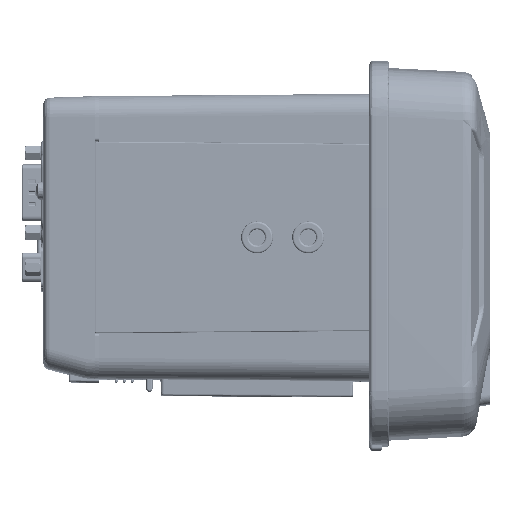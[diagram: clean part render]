
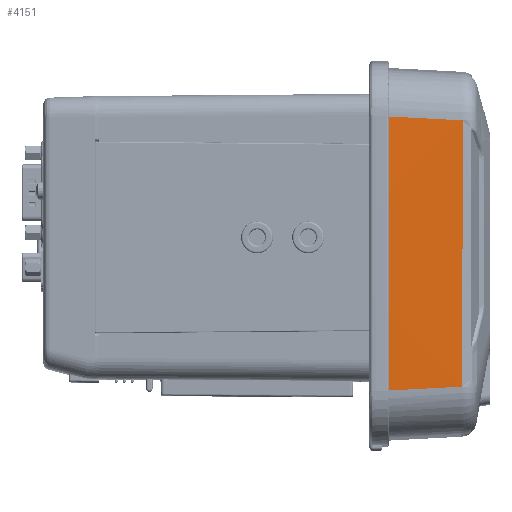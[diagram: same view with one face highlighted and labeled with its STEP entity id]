
A CAD part, top view. The second image highlights one B-rep face of the part: STEP entity #4151.
In plain terms, the highlighted cylindrical face has radius 2503.04 mm (diameter 5006.08 mm), a partial arc.
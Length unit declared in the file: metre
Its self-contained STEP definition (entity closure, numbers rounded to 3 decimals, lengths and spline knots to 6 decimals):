
#4151=ADVANCED_FACE('4072:41922',(#15879),#15880,.T.);
#15879=FACE_OUTER_BOUND('',#44069,.T.);
#15880=CYLINDRICAL_SURFACE('',#44070,2.503038);
#44069=EDGE_LOOP('',(#140937,#140938,#140939,#140940));
#44070=AXIS2_PLACEMENT_3D('',#140941,#140942,#140943);
#140937=ORIENTED_EDGE('',*,*,#225186,.T.);
#140938=ORIENTED_EDGE('',*,*,#224998,.T.);
#140939=ORIENTED_EDGE('',*,*,#225185,.F.);
#140940=ORIENTED_EDGE('',*,*,#224775,.T.);
#140941=CARTESIAN_POINT('',(-2.389142,-0.000002,0.144448));
#140942=DIRECTION('',(0.053,0.,0.999));
#140943=DIRECTION('',(0.,-1.,0.));
#224775=EDGE_CURVE('4072:43704',#257653,#257651,#257654,.T.);
#224998=EDGE_CURVE('4072:43509',#257980,#256106,#258010,.T.);
#225185=EDGE_CURVE('4072:45288',#257653,#256106,#258277,.T.);
#225186=EDGE_CURVE('4072:45312',#257651,#257980,#258278,.T.);
#256106=VERTEX_POINT('',#302435);
#257651=VERTEX_POINT('',#307067);
#257653=VERTEX_POINT('',#307087);
#257654=CIRCLE('',#307088,2.49956);
#257980=VERTEX_POINT('',#307855);
#258010=B_SPLINE_CURVE_WITH_KNOTS('',3,(#307986,#307987,#307988,#307989,#307990,#307991,#307992,#307993,#307994,#307995,#307996,#307997,#307998,#307999,#308000,#308001,#308002,#308003,#308004,#308005,#308006,#308007,#308008,#308009,#308010,#308011),.UNSPECIFIED.,.F.,.F.,(4,2,2,1,2,2,2,2,2,2,2,3,4),(0.0,0.002603,0.003905,0.005206,0.010412,0.020824,0.041648,0.062472,0.072884,0.080693,0.081995,0.083296,0.083302),.UNSPECIFIED.);
#258277=B_SPLINE_CURVE_WITH_KNOTS('',3,(#308737,#308738,#308739,#308740,#308741),.UNSPECIFIED.,.F.,.F.,(4,1,4),(0.0,0.025785,1.0),.UNSPECIFIED.);
#258278=LINE('',#308742,#308743);
#302435=CARTESIAN_POINT('',(0.108918,0.041645,-0.009298));
#307067=CARTESIAN_POINT('',(0.110328,-0.043065,0.01785));
#307087=CARTESIAN_POINT('',(0.110327,0.043065,0.01785));
#307088=AXIS2_PLACEMENT_3D('',#390117,#390118,#390119);
#307855=CARTESIAN_POINT('',(0.108923,-0.041651,-0.009194));
#307986=CARTESIAN_POINT('',(0.108923,-0.041651,-0.009194));
#307987=CARTESIAN_POINT('',(0.108935,-0.040783,-0.009254));
#307988=CARTESIAN_POINT('',(0.108946,-0.039916,-0.009303));
#307989=CARTESIAN_POINT('',(0.108964,-0.038614,-0.009344));
#307990=CARTESIAN_POINT('',(0.10897,-0.03818,-0.009352));
#307991=CARTESIAN_POINT('',(0.108983,-0.037313,-0.009352));
#307992=CARTESIAN_POINT('',(0.109016,-0.035144,-0.009353));
#307993=CARTESIAN_POINT('',(0.109045,-0.032974,-0.009354));
#307994=CARTESIAN_POINT('',(0.10911,-0.027769,-0.009357));
#307995=CARTESIAN_POINT('',(0.109146,-0.024298,-0.009358));
#307996=CARTESIAN_POINT('',(0.109233,-0.013886,-0.009362));
#307997=CARTESIAN_POINT('',(0.109261,-0.006945,-0.009363));
#307998=CARTESIAN_POINT('',(0.109261,0.006938,-0.009365));
#307999=CARTESIAN_POINT('',(0.109233,0.01388,-0.009365));
#308000=CARTESIAN_POINT('',(0.109146,0.024292,-0.009364));
#308001=CARTESIAN_POINT('',(0.10911,0.027763,-0.009363));
#308002=CARTESIAN_POINT('',(0.109034,0.033836,-0.009362));
#308003=CARTESIAN_POINT('',(0.108997,0.036439,-0.009361));
#308004=CARTESIAN_POINT('',(0.10895,0.039476,-0.00936));
#308005=CARTESIAN_POINT('',(0.108943,0.03991,-0.009359));
#308006=CARTESIAN_POINT('',(0.10893,0.040778,-0.009337));
#308007=CARTESIAN_POINT('',(0.108924,0.041211,-0.00932));
#308008=CARTESIAN_POINT('',(0.108918,0.041645,-0.009298));
#308009=CARTESIAN_POINT('',(0.108918,0.041647,-0.009298));
#308010=CARTESIAN_POINT('',(0.108918,0.041649,-0.009297));
#308011=CARTESIAN_POINT('',(0.108918,0.041651,-0.009297));
#308737=CARTESIAN_POINT('',(0.110327,0.043065,0.01785));
#308738=CARTESIAN_POINT('',(0.110315,0.043052,0.017617));
#308739=CARTESIAN_POINT('',(0.109846,0.042579,0.008567));
#308740=CARTESIAN_POINT('',(0.109376,0.042106,-0.000482));
#308741=CARTESIAN_POINT('',(0.108918,0.041645,-0.009298));
#308742=CARTESIAN_POINT('',(0.108923,-0.041651,-0.009194));
#308743=VECTOR('',#390732,1.0);
#390117=CARTESIAN_POINT('',(-2.388862,-0.000004,0.017901));
#390118=DIRECTION('',(0.,0.,-1.));
#390119=DIRECTION('',(1.,0.017,0.));
#390732=DIRECTION('',(-0.052,0.052,-0.997));
